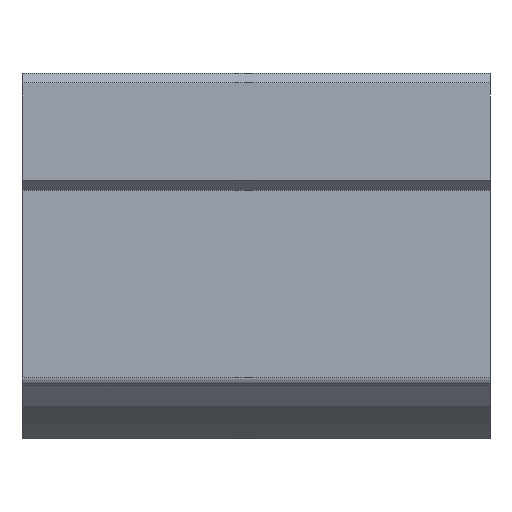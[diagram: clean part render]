
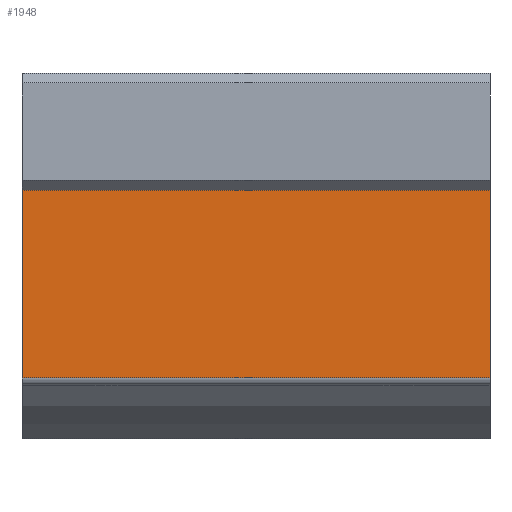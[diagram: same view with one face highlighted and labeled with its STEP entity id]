
A CAD part, front view. The second image highlights one B-rep face of the part: STEP entity #1948.
In plain terms, the highlighted planar face has unit normal (0, -1, 0).
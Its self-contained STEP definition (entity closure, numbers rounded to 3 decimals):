
#1677=CARTESIAN_POINT('',(96.,-49.,16.));
#1678=VERTEX_POINT('',#1677);
#1685=CARTESIAN_POINT('',(96.,-49.,-22.5));
#1686=VERTEX_POINT('',#1685);
#1687=CARTESIAN_POINT('',(96.,-49.,-22.5));
#1688=DIRECTION('',(0.0,0.0,1.0));
#1689=VECTOR('',#1688,38.5);
#1690=LINE('',#1687,#1689);
#1691=EDGE_CURVE('',#1686,#1678,#1690,.T.);
#1755=CARTESIAN_POINT('',(0.0,-49.,-22.5));
#1756=VERTEX_POINT('',#1755);
#1757=CARTESIAN_POINT('',(96.,-49.,-22.5));
#1758=DIRECTION('',(-1.0,0.0,0.0));
#1759=VECTOR('',#1758,96.);
#1760=LINE('',#1757,#1759);
#1761=EDGE_CURVE('',#1686,#1756,#1760,.T.);
#1821=CARTESIAN_POINT('',(0.0,-49.,16.));
#1822=VERTEX_POINT('',#1821);
#1823=CARTESIAN_POINT('',(0.0,-49.,16.));
#1824=DIRECTION('',(0.0,0.0,-1.0));
#1825=VECTOR('',#1824,38.5);
#1826=LINE('',#1823,#1825);
#1827=EDGE_CURVE('',#1822,#1756,#1826,.T.);
#1932=CARTESIAN_POINT('',(0.0,-49.,-24.));
#1933=DIRECTION('',(0.0,-1.0,0.0));
#1934=DIRECTION('',(0.0,0.0,-1.0));
#1935=AXIS2_PLACEMENT_3D('',#1932,#1933,#1934);
#1936=PLANE('',#1935);
#1937=ORIENTED_EDGE('',*,*,#1761,.F.);
#1938=ORIENTED_EDGE('',*,*,#1691,.T.);
#1939=CARTESIAN_POINT('',(0.0,-49.,16.));
#1940=DIRECTION('',(1.0,0.0,0.0));
#1941=VECTOR('',#1940,96.);
#1942=LINE('',#1939,#1941);
#1943=EDGE_CURVE('',#1822,#1678,#1942,.T.);
#1944=ORIENTED_EDGE('',*,*,#1943,.F.);
#1945=ORIENTED_EDGE('',*,*,#1827,.T.);
#1946=EDGE_LOOP('',(#1937,#1938,#1944,#1945));
#1947=FACE_OUTER_BOUND('',#1946,.T.);
#1948=ADVANCED_FACE('',(#1947),#1936,.T.);
